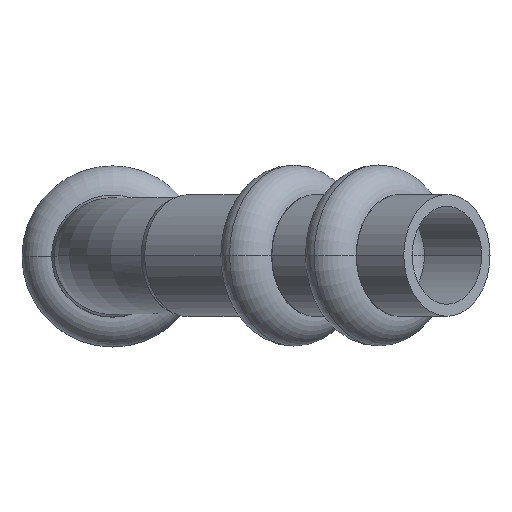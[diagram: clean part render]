
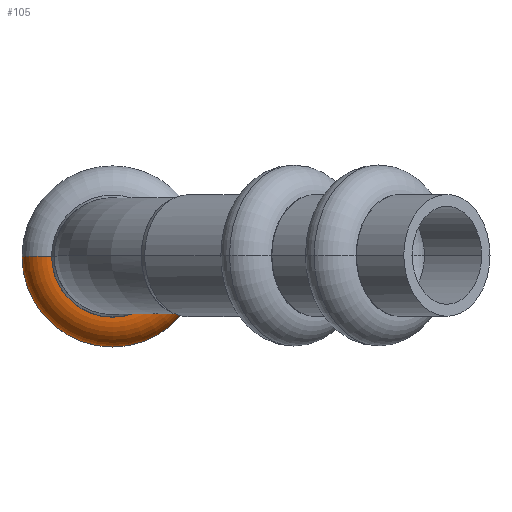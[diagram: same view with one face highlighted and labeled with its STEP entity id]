
A CAD part, top view. The second image highlights one B-rep face of the part: STEP entity #105.
In plain terms, the highlighted toroidal (fillet/blend) face has major radius 4.05 mm and minor radius 2 mm.
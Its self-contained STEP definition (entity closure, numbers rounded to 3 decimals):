
#105=ADVANCED_FACE('',(#274),#275,.T.);
#274=FACE_OUTER_BOUND('',#522,.T.);
#275=TOROIDAL_SURFACE('',#523,4.05,2.);
#522=EDGE_LOOP('',(#779,#780,#781,#782));
#523=AXIS2_PLACEMENT_3D('',#783,#784,#785);
#779=ORIENTED_EDGE('',*,*,#1363,.F.);
#780=ORIENTED_EDGE('',*,*,#1364,.T.);
#781=ORIENTED_EDGE('',*,*,#1365,.T.);
#782=ORIENTED_EDGE('',*,*,#1366,.T.);
#783=CARTESIAN_POINT('',(0.,0.0,14.5));
#784=DIRECTION('',(0.,0.0,-1.0));
#785=DIRECTION('',(-1.0,0.0,0.));
#1363=EDGE_CURVE('',#1598,#1599,#1600,.T.);
#1364=EDGE_CURVE('',#1598,#1601,#1602,.T.);
#1365=EDGE_CURVE('',#1601,#1603,#1604,.T.);
#1366=EDGE_CURVE('',#1603,#1599,#1605,.T.);
#1598=VERTEX_POINT('',#2045);
#1599=VERTEX_POINT('',#2046);
#1600=CIRCLE('',#2047,6.05);
#1601=VERTEX_POINT('',#2048);
#1602=CIRCLE('',#2049,2.);
#1603=VERTEX_POINT('',#2050);
#1604=CIRCLE('',#2051,4.05);
#1605=CIRCLE('',#2052,2.);
#2045=CARTESIAN_POINT('',(6.05,0.,14.5));
#2046=CARTESIAN_POINT('',(-6.05,0.,14.5));
#2047=AXIS2_PLACEMENT_3D('',#2522,#2523,#2524);
#2048=CARTESIAN_POINT('',(4.05,0.,16.5));
#2049=AXIS2_PLACEMENT_3D('',#2525,#2526,#2527);
#2050=CARTESIAN_POINT('',(-4.05,0.,16.5));
#2051=AXIS2_PLACEMENT_3D('',#2528,#2529,#2530);
#2052=AXIS2_PLACEMENT_3D('',#2531,#2532,#2533);
#2522=CARTESIAN_POINT('',(0.,0.0,14.5));
#2523=DIRECTION('',(0.,0.0,-1.0));
#2524=DIRECTION('',(-1.0,0.0,0.));
#2525=CARTESIAN_POINT('',(4.05,0.,14.5));
#2526=DIRECTION('',(0.,-1.0,0.));
#2527=DIRECTION('',(1.0,0.,0.));
#2528=CARTESIAN_POINT('',(0.,0.0,16.5));
#2529=DIRECTION('',(0.,0.0,-1.0));
#2530=DIRECTION('',(1.0,0.0,0.));
#2531=CARTESIAN_POINT('',(-4.05,0.,14.5));
#2532=DIRECTION('',(0.,-1.0,0.));
#2533=DIRECTION('',(-1.0,0.,0.));
